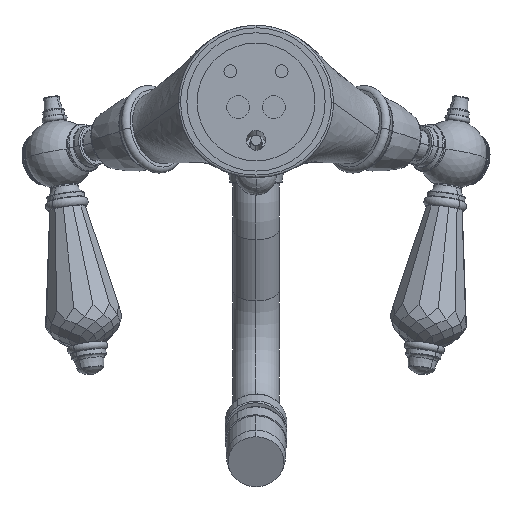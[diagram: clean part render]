
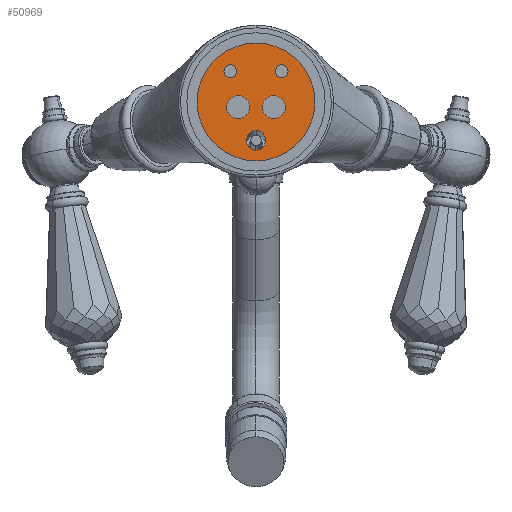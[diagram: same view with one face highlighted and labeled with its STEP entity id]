
A CAD part, front view. The second image highlights one B-rep face of the part: STEP entity #50969.
In plain terms, the highlighted planar face has unit normal (0, -1, 0).
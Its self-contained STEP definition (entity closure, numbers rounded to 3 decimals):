
#13033=CARTESIAN_POINT('',(0.,0.,0.));
#13034=DIRECTION('',(0.,1.,0.));
#13035=DIRECTION('',(-1.,0.,0.));
#13036=AXIS2_PLACEMENT_3D('',#13033,#13034,#13035);
#13038=CARTESIAN_POINT('',(0.,0.,0.));
#13039=DIRECTION('',(0.,1.,0.));
#13040=DIRECTION('',(1.,0.,0.));
#13041=AXIS2_PLACEMENT_3D('',#13038,#13039,#13040);
#13043=CARTESIAN_POINT('',(-7.,0.,-2.));
#13044=DIRECTION('',(0.,-1.,0.));
#13045=DIRECTION('',(-1.,0.,0.));
#13046=AXIS2_PLACEMENT_3D('',#13043,#13044,#13045);
#13048=CARTESIAN_POINT('',(-7.,0.,-2.));
#13049=DIRECTION('',(0.,-1.,0.));
#13050=DIRECTION('',(1.,0.,0.));
#13051=AXIS2_PLACEMENT_3D('',#13048,#13049,#13050);
#13053=CARTESIAN_POINT('',(7.,0.,-2.));
#13054=DIRECTION('',(0.,-1.,0.));
#13055=DIRECTION('',(-1.,0.,0.));
#13056=AXIS2_PLACEMENT_3D('',#13053,#13054,#13055);
#13058=CARTESIAN_POINT('',(7.,0.,-2.));
#13059=DIRECTION('',(0.,-1.,0.));
#13060=DIRECTION('',(1.,0.,0.));
#13061=AXIS2_PLACEMENT_3D('',#13058,#13059,#13060);
#13063=CARTESIAN_POINT('',(-10.,0.,12.));
#13064=DIRECTION('',(0.,-1.,0.));
#13065=DIRECTION('',(-1.,0.,0.));
#13066=AXIS2_PLACEMENT_3D('',#13063,#13064,#13065);
#13068=CARTESIAN_POINT('',(-10.,0.,12.));
#13069=DIRECTION('',(0.,-1.,0.));
#13070=DIRECTION('',(1.,0.,0.));
#13071=AXIS2_PLACEMENT_3D('',#13068,#13069,#13070);
#13073=CARTESIAN_POINT('',(10.,0.,12.));
#13074=DIRECTION('',(0.,-1.,0.));
#13075=DIRECTION('',(-1.,0.,0.));
#13076=AXIS2_PLACEMENT_3D('',#13073,#13074,#13075);
#13078=CARTESIAN_POINT('',(10.,0.,12.));
#13079=DIRECTION('',(0.,-1.,0.));
#13080=DIRECTION('',(1.,0.,0.));
#13081=AXIS2_PLACEMENT_3D('',#13078,#13079,#13080);
#13083=CARTESIAN_POINT('',(0.,0.,
-18.882));
#13084=CARTESIAN_POINT('',(0.221,0.,
-18.882));
#13085=CARTESIAN_POINT('',(0.679,0.,
-18.842));
#13086=CARTESIAN_POINT('',(1.385,0.,
-18.636));
#13087=CARTESIAN_POINT('',(2.064,0.,
-18.274));
#13088=CARTESIAN_POINT('',(2.671,0.,
-17.765));
#13089=CARTESIAN_POINT('',(3.162,0.,
-17.137));
#13090=CARTESIAN_POINT('',(3.512,0.,
-16.433));
#13091=CARTESIAN_POINT('',(3.678,0.,
-15.825));
#13092=CARTESIAN_POINT('',(3.74,0.,
-15.347));
#13093=CARTESIAN_POINT('',(3.755,0.,
-15.));
#13094=CARTESIAN_POINT('',(3.74,0.,
-14.653));
#13095=CARTESIAN_POINT('',(3.678,0.,
-14.175));
#13096=CARTESIAN_POINT('',(3.512,0.,
-13.567));
#13097=CARTESIAN_POINT('',(3.162,0.,
-12.863));
#13098=CARTESIAN_POINT('',(2.671,0.,
-12.235));
#13099=CARTESIAN_POINT('',(2.064,0.,
-11.726));
#13100=CARTESIAN_POINT('',(1.385,0.,
-11.364));
#13101=CARTESIAN_POINT('',(0.679,0.,
-11.158));
#13102=CARTESIAN_POINT('',(0.221,0.,
-11.118));
#13103=CARTESIAN_POINT('',(0.,0.,
-11.118));
#13105=CARTESIAN_POINT('',(0.,0.,
-11.118));
#13106=CARTESIAN_POINT('',(-0.221,0.,
-11.118));
#13107=CARTESIAN_POINT('',(-0.679,0.,
-11.158));
#13108=CARTESIAN_POINT('',(-1.385,0.,
-11.364));
#13109=CARTESIAN_POINT('',(-2.064,0.,
-11.726));
#13110=CARTESIAN_POINT('',(-2.671,0.,
-12.235));
#13111=CARTESIAN_POINT('',(-3.162,0.,
-12.863));
#13112=CARTESIAN_POINT('',(-3.512,0.,
-13.567));
#13113=CARTESIAN_POINT('',(-3.678,0.,
-14.175));
#13114=CARTESIAN_POINT('',(-3.74,0.,
-14.653));
#13115=CARTESIAN_POINT('',(-3.755,0.,
-15.));
#13116=CARTESIAN_POINT('',(-3.74,0.,
-15.347));
#13117=CARTESIAN_POINT('',(-3.678,0.,
-15.825));
#13118=CARTESIAN_POINT('',(-3.512,0.,
-16.433));
#13119=CARTESIAN_POINT('',(-3.162,0.,
-17.137));
#13120=CARTESIAN_POINT('',(-2.671,0.,
-17.765));
#13121=CARTESIAN_POINT('',(-2.064,0.,
-18.274));
#13122=CARTESIAN_POINT('',(-1.385,0.,
-18.636));
#13123=CARTESIAN_POINT('',(-0.679,0.,
-18.842));
#13124=CARTESIAN_POINT('',(-0.221,0.,
-18.882));
#13125=CARTESIAN_POINT('',(0.,0.,
-18.882));
#15404=CARTESIAN_POINT('',(-23.,0.,0.));
#15405=CARTESIAN_POINT('',(23.,0.,0.));
#15406=VERTEX_POINT('',#15404);
#15407=VERTEX_POINT('',#15405);
#15420=CARTESIAN_POINT('',(-11.5,0.,-2.));
#15421=CARTESIAN_POINT('',(-2.5,0.,-2.));
#15422=VERTEX_POINT('',#15420);
#15423=VERTEX_POINT('',#15421);
#15424=CARTESIAN_POINT('',(2.5,0.,-2.));
#15425=CARTESIAN_POINT('',(11.5,0.,-2.));
#15426=VERTEX_POINT('',#15424);
#15427=VERTEX_POINT('',#15425);
#15436=CARTESIAN_POINT('',(-12.5,0.,12.));
#15437=CARTESIAN_POINT('',(-7.5,0.,12.));
#15438=VERTEX_POINT('',#15436);
#15439=VERTEX_POINT('',#15437);
#15440=CARTESIAN_POINT('',(7.5,0.,12.));
#15441=CARTESIAN_POINT('',(12.5,0.,12.));
#15442=VERTEX_POINT('',#15440);
#15443=VERTEX_POINT('',#15441);
#15454=VERTEX_POINT('',#13083);
#15455=VERTEX_POINT('',#13103);
#50929=CARTESIAN_POINT('',(0.,0.,
-0.004));
#50930=DIRECTION('',(0.,-1.,0.));
#50931=DIRECTION('',(1.,0.,0.));
#50932=AXIS2_PLACEMENT_3D('',#50929,#50930,#50931);
#50933=PLANE('',#50932);
#50935=ORIENTED_EDGE('',*,*,#50934,.T.);
#50937=ORIENTED_EDGE('',*,*,#50936,.T.);
#50938=EDGE_LOOP('',(#50935,#50937));
#50939=FACE_OUTER_BOUND('',#50938,.F.);
#50941=ORIENTED_EDGE('',*,*,#50940,.T.);
#50943=ORIENTED_EDGE('',*,*,#50942,.T.);
#50944=EDGE_LOOP('',(#50941,#50943));
#50945=FACE_BOUND('',#50944,.F.);
#50947=ORIENTED_EDGE('',*,*,#50946,.T.);
#50949=ORIENTED_EDGE('',*,*,#50948,.T.);
#50950=EDGE_LOOP('',(#50947,#50949));
#50951=FACE_BOUND('',#50950,.F.);
#50953=ORIENTED_EDGE('',*,*,#50952,.T.);
#50955=ORIENTED_EDGE('',*,*,#50954,.T.);
#50956=EDGE_LOOP('',(#50953,#50955));
#50957=FACE_BOUND('',#50956,.F.);
#50959=ORIENTED_EDGE('',*,*,#50958,.T.);
#50961=ORIENTED_EDGE('',*,*,#50960,.T.);
#50962=EDGE_LOOP('',(#50959,#50961));
#50963=FACE_BOUND('',#50962,.F.);
#50965=ORIENTED_EDGE('',*,*,#50964,.T.);
#50966=ORIENTED_EDGE('',*,*,#50919,.T.);
#50967=EDGE_LOOP('',(#50965,#50966));
#50968=FACE_BOUND('',#50967,.F.);
#50969=ADVANCED_FACE('',(#50939,#50945,#50951,#50957,#50963,#50968),#50933,.T.);
#13037=CIRCLE('',#13036,23.);
#13042=CIRCLE('',#13041,23.);
#13047=CIRCLE('',#13046,4.5);
#13052=CIRCLE('',#13051,4.5);
#13057=CIRCLE('',#13056,4.5);
#13062=CIRCLE('',#13061,4.5);
#13067=CIRCLE('',#13066,2.5);
#13072=CIRCLE('',#13071,2.5);
#13077=CIRCLE('',#13076,2.5);
#13082=CIRCLE('',#13081,2.5);
#13104=B_SPLINE_CURVE_WITH_KNOTS('',3,(#13083,#13084,#13085,#13086,#13087,
#13088,#13089,#13090,#13091,#13092,#13093,#13094,#13095,#13096,#13097,#13098,
#13099,#13100,#13101,#13102,#13103),.UNSPECIFIED.,.F.,.F.,(4,1,1,1,1,1,1,1,1,1,
1,1,1,1,1,1,1,1,4),(0.,0.063,0.125,0.188,0.25,0.313,0.375,
0.438,0.469,0.5,0.531,0.563,0.625,0.688,0.75,0.813,
0.875,0.938,1.),.UNSPECIFIED.);
#13126=B_SPLINE_CURVE_WITH_KNOTS('',3,(#13105,#13106,#13107,#13108,#13109,
#13110,#13111,#13112,#13113,#13114,#13115,#13116,#13117,#13118,#13119,#13120,
#13121,#13122,#13123,#13124,#13125),.UNSPECIFIED.,.F.,.F.,(4,1,1,1,1,1,1,1,1,1,
1,1,1,1,1,1,1,1,4),(0.,0.063,0.125,0.188,0.25,0.313,0.375,
0.438,0.469,0.5,0.531,0.563,0.625,0.688,0.75,0.813,
0.875,0.938,1.),.UNSPECIFIED.);
#50919=EDGE_CURVE('',#15455,#15454,#13126,.T.);
#50934=EDGE_CURVE('',#15406,#15407,#13037,.T.);
#50936=EDGE_CURVE('',#15407,#15406,#13042,.T.);
#50940=EDGE_CURVE('',#15422,#15423,#13047,.T.);
#50942=EDGE_CURVE('',#15423,#15422,#13052,.T.);
#50946=EDGE_CURVE('',#15426,#15427,#13057,.T.);
#50948=EDGE_CURVE('',#15427,#15426,#13062,.T.);
#50952=EDGE_CURVE('',#15438,#15439,#13067,.T.);
#50954=EDGE_CURVE('',#15439,#15438,#13072,.T.);
#50958=EDGE_CURVE('',#15442,#15443,#13077,.T.);
#50960=EDGE_CURVE('',#15443,#15442,#13082,.T.);
#50964=EDGE_CURVE('',#15454,#15455,#13104,.T.);
